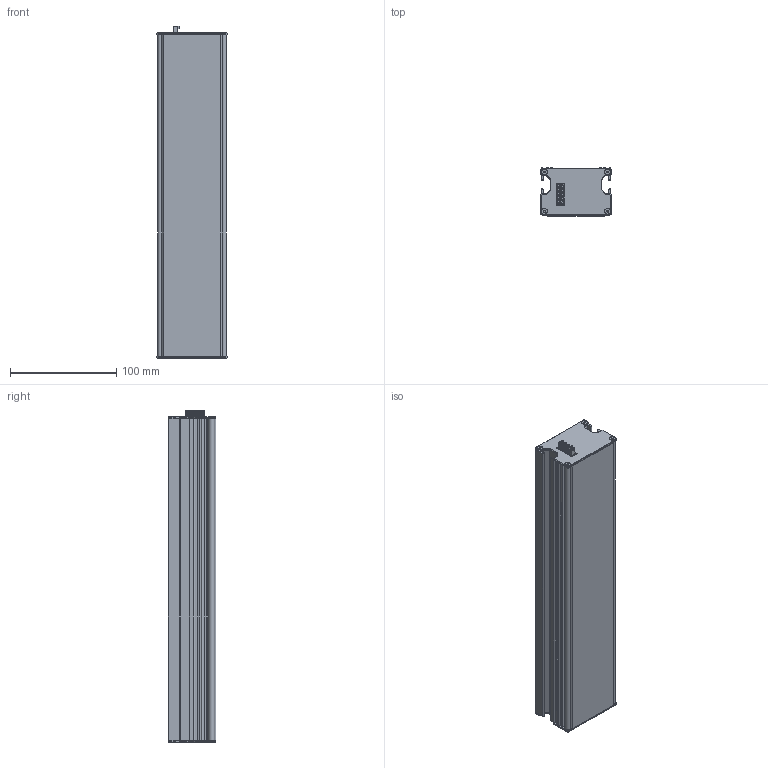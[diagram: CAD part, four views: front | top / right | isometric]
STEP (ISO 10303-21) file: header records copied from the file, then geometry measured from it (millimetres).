
FILE_DESCRIPTION (( 'STEP AP203' ), '1' );
FILE_NAME ('LX300.STEP', '2011-07-13T18:20:46', ( 'Admin' ), ( 'Tri-Mation' ), 'SwSTEP 2.0', 'SolidWorks 2011', '' );
FILE_SCHEMA (( 'CONFIG_CONTROL_DESIGN' ));
Length unit declared in the file: millimetre
Products named in the file (1): LX300
Bounding box: 66 x 45 x 312.77 mm (x, y, z)
Surface area: 156997.9 mm2 (no closed solid volume)
Topology: 0 solids, 18 shells, 491 faces, 1823 edges, 1308 vertices
Faces by surface type: plane 302, cylinder 155, cone 24, bspline 10
Entity records: 19951 total; most frequent: CARTESIAN_POINT 4314, DIRECTION 3304, ORIENTED_EDGE 2964, EDGE_CURVE 1815, VERTEX_POINT 1304, LINE 1238, VECTOR 1238, AXIS2_PLACEMENT_3D 1033
